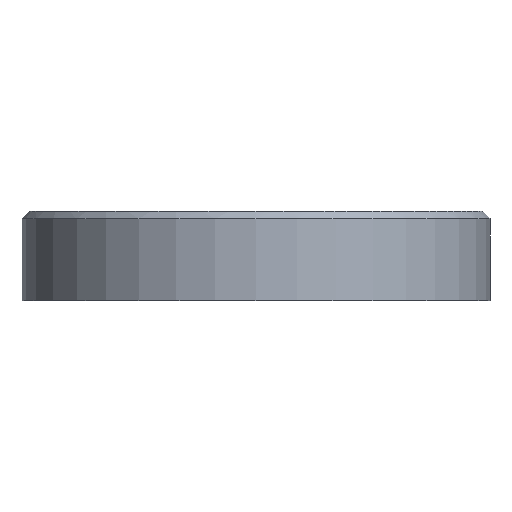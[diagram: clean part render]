
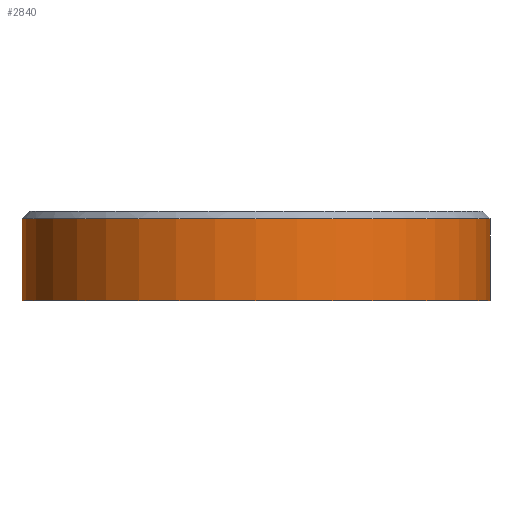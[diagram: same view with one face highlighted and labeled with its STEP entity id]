
A CAD part, front view. The second image highlights one B-rep face of the part: STEP entity #2840.
In plain terms, the highlighted cylindrical face has radius 31.5 mm (diameter 63 mm), a partial arc.
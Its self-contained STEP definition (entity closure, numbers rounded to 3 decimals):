
#94 = CARTESIAN_POINT ( 'NONE',  ( 31.5, 0., 0. ) ) ;
#271 = EDGE_CURVE ( 'NONE', #2384, #1632, #1749, .T. ) ;
#357 = VERTEX_POINT ( 'NONE', #94 ) ;
#570 = DIRECTION ( 'NONE',  ( 1., 0., 0. ) ) ;
#715 = VECTOR ( 'NONE', #2118, 1000. ) ;
#753 = VERTEX_POINT ( 'NONE', #1240 ) ;
#955 = EDGE_CURVE ( 'NONE', #753, #357, #3650, .T. ) ;
#1123 = CARTESIAN_POINT ( 'NONE',  ( 31.5, 0., 0. ) ) ;
#1240 = CARTESIAN_POINT ( 'NONE',  ( -31.5, 0., 0. ) ) ;
#1540 = LINE ( 'NONE', #1677, #715 ) ;
#1632 = VERTEX_POINT ( 'NONE', #2479 ) ;
#1677 = CARTESIAN_POINT ( 'NONE',  ( -31.5, 0., 0. ) ) ;
#1726 = EDGE_CURVE ( 'NONE', #753, #2384, #1540, .T. ) ;
#1749 = CIRCLE ( 'NONE', #4079, 31.5 ) ;
#1751 = LINE ( 'NONE', #1123, #4258 ) ;
#1898 = DIRECTION ( 'NONE',  ( 0., 0., 1. ) ) ;
#1929 = CYLINDRICAL_SURFACE ( 'NONE', #3948, 31.5 ) ;
#1982 = ORIENTED_EDGE ( 'NONE', *, *, #3364, .T. ) ;
#2102 = AXIS2_PLACEMENT_3D ( 'NONE', #4060, #1898, #570 ) ;
#2118 = DIRECTION ( 'NONE',  ( 0., 0., 1. ) ) ;
#2264 = CARTESIAN_POINT ( 'NONE',  ( -31.5, 0., 11. ) ) ;
#2365 = ORIENTED_EDGE ( 'NONE', *, *, #955, .T. ) ;
#2370 = ORIENTED_EDGE ( 'NONE', *, *, #271, .F. ) ;
#2382 = ORIENTED_EDGE ( 'NONE', *, *, #1726, .F. ) ;
#2384 = VERTEX_POINT ( 'NONE', #2264 ) ;
#2479 = CARTESIAN_POINT ( 'NONE',  ( 31.5, 0., 11. ) ) ;
#2700 = DIRECTION ( 'NONE',  ( 0., 1., 0. ) ) ;
#2749 = DIRECTION ( 'NONE',  ( 0., 0., 1. ) ) ;
#2840 = ADVANCED_FACE ( 'NONE', ( #4083 ), #1929, .T. ) ;
#3223 = CARTESIAN_POINT ( 'NONE',  ( 0., 0., 11. ) ) ;
#3225 = DIRECTION ( 'NONE',  ( 0., 0., 1. ) ) ;
#3243 = DIRECTION ( 'NONE',  ( 1., 0., 0. ) ) ;
#3364 = EDGE_CURVE ( 'NONE', #357, #1632, #1751, .T. ) ;
#3650 = CIRCLE ( 'NONE', #2102, 31.5 ) ;
#3769 = DIRECTION ( 'NONE',  ( 0., 0., 1. ) ) ;
#3912 = EDGE_LOOP ( 'NONE', ( #2365, #1982, #2370, #2382 ) ) ;
#3948 = AXIS2_PLACEMENT_3D ( 'NONE', #4050, #3769, #2700 ) ;
#4050 = CARTESIAN_POINT ( 'NONE',  ( 0., 0., 12. ) ) ;
#4060 = CARTESIAN_POINT ( 'NONE',  ( 0., 0., 0. ) ) ;
#4079 = AXIS2_PLACEMENT_3D ( 'NONE', #3223, #3225, #3243 ) ;
#4083 = FACE_OUTER_BOUND ( 'NONE', #3912, .T. ) ;
#4258 = VECTOR ( 'NONE', #2749, 1000. ) ;
